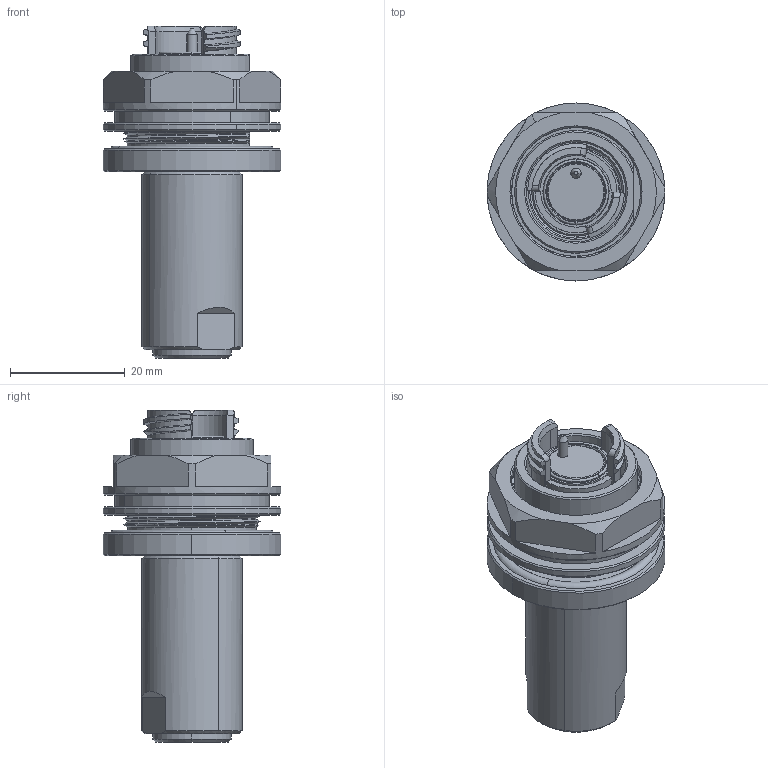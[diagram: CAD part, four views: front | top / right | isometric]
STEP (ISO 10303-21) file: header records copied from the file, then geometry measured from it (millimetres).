
FILE_DESCRIPTION (( 'STEP AP214' ), '1' );
FILE_NAME ('QMICRO-RJXX-XXXX-LXX.STEP', '2025-05-02T23:45:14', ( '' ), ( '' ), 'SwSTEP 2.0', 'SolidWorks 2024', '' );
FILE_SCHEMA (( 'AUTOMOTIVE_DESIGN' ));
Length unit declared in the file: inch
Products named in the file (1): QMICRO-RJXX-XXXX-LXX
Bounding box: 31 x 31 x 57.83 mm (x, y, z)
Volume: 18774.8 mm3; surface area: 10255.5 mm2
Topology: 1 solids, 2 shells, 286 faces, 758 edges, 485 vertices
Faces by surface type: cylinder 122, cone 63, plane 55, bspline 34, torus 12
Entity records: 17183 total; most frequent: CARTESIAN_POINT 10662, ORIENTED_EDGE 1516, DIRECTION 1220, EDGE_CURVE 758, VERTEX_POINT 485, AXIS2_PLACEMENT_3D 483, EDGE_LOOP 307, ADVANCED_FACE 286
